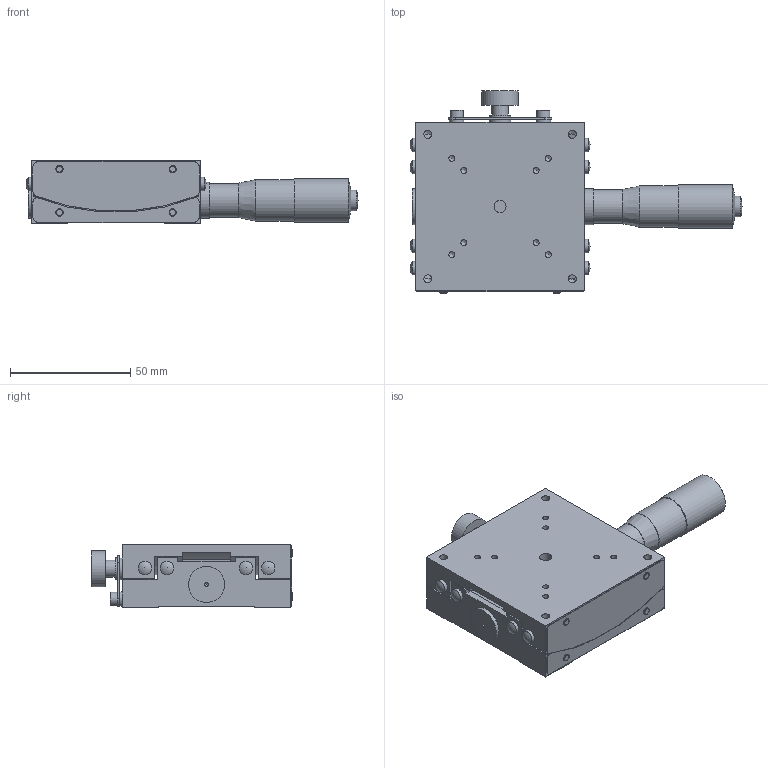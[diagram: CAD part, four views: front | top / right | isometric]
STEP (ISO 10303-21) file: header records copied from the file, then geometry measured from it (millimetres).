
FILE_DESCRIPTION( ( 'STEP AP214' ), '1' );
FILE_NAME( '//Srg14/OST事業部/技術G/各個人用/藤本/現在製作中の簡易形状+070424/3D_B58-70UA+070424/3D_B58-70UA+070424.step', '2007-04-30T02:46:55', ( ' ' ), ( ' ' ), 'XStep 1.0', ' ', ' ' );
FILE_SCHEMA( ( 'automotive_design' ) );
Length unit declared in the file: millimetre
Products named in the file (4): 1; 2; 3; 4
Bounding box: 137.9 x 83.9 x 26 mm (x, y, z)
Volume: 124574.6 mm3; surface area: 46125.4 mm2
Topology: 4 solids, 4 shells, 275 faces, 706 edges, 462 vertices
Faces by surface type: cylinder 119, plane 117, cone 20, sphere 11, torus 8
Full cylindrical faces by diameter (mm): 1.5 x2, 2.5 x16, 3 x4, 3.3 x8, 4 x1, 4.5 x4, 5 x3, 5.5 x2, 5.6 x8, 6 x4, 6.35 x2, 7 x1, 8 x5, 8.6 x1, 9 x4, 12 x1, 14 x1, 15 x3, 16.8 x1, 17.2 x1, 18 x1
Entity records: 10054 total; most frequent: CARTESIAN_POINT 1762, DIRECTION 1302, ORIENTED_EDGE 1050, EDGE_CURVE 525, AXIS2_PLACEMENT_3D 516, EDGE_LOOP 430, VERTEX_POINT 405, FACE_OUTER_BOUND 356
